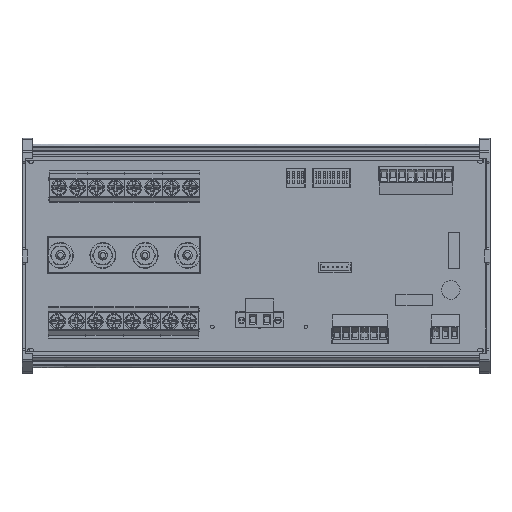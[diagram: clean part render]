
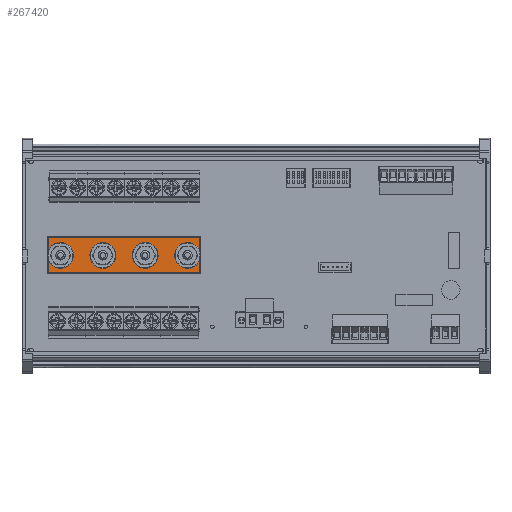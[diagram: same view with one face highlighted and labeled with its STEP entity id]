
A CAD part, top view. The second image highlights one B-rep face of the part: STEP entity #267420.
In plain terms, the highlighted planar face has unit normal (0, 0, 1).
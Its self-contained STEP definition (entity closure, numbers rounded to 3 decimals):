
#266843 = CYLINDRICAL_SURFACE('',#266844,0.5);
#266844 = AXIS2_PLACEMENT_3D('',#266845,#266846,#266847);
#266845 = CARTESIAN_POINT('',(0.5,0.,4.5));
#266846 = DIRECTION('',(0.,1.,0.));
#266847 = DIRECTION('',(-1.,0.,0.));
#267026 = VERTEX_POINT('',#267027);
#267027 = CARTESIAN_POINT('',(0.5,0.5,5.));
#267047 = EDGE_CURVE('',#267026,#267048,#267050,.T.);
#267048 = VERTEX_POINT('',#267049);
#267049 = CARTESIAN_POINT('',(0.5,19.5,5.));
#267050 = SURFACE_CURVE('',#267051,(#267055,#267062),.PCURVE_S1.);
#267051 = LINE('',#267052,#267053);
#267052 = CARTESIAN_POINT('',(0.5,0.,5.));
#267053 = VECTOR('',#267054,1.);
#267054 = DIRECTION('',(0.,1.,0.));
#267055 = PCURVE('',#266843,#267056);
#267056 = DEFINITIONAL_REPRESENTATION('',(#267057),#267061);
#267057 = LINE('',#267058,#267059);
#267058 = CARTESIAN_POINT('',(1.571,0.));
#267059 = VECTOR('',#267060,1.);
#267060 = DIRECTION('',(0.,1.));
#267061 = ( GEOMETRIC_REPRESENTATION_CONTEXT(2) 
PARAMETRIC_REPRESENTATION_CONTEXT() REPRESENTATION_CONTEXT('2D SPACE',''
  ) );
#267062 = PCURVE('',#267063,#267068);
#267063 = PLANE('',#267064);
#267064 = AXIS2_PLACEMENT_3D('',#267065,#267066,#267067);
#267065 = CARTESIAN_POINT('',(0.,0.,5.));
#267066 = DIRECTION('',(0.,0.,1.));
#267067 = DIRECTION('',(1.,0.,0.));
#267068 = DEFINITIONAL_REPRESENTATION('',(#267069),#267073);
#267069 = LINE('',#267070,#267071);
#267070 = CARTESIAN_POINT('',(0.5,0.));
#267071 = VECTOR('',#267072,1.);
#267072 = DIRECTION('',(0.,1.));
#267073 = ( GEOMETRIC_REPRESENTATION_CONTEXT(2) 
PARAMETRIC_REPRESENTATION_CONTEXT() REPRESENTATION_CONTEXT('2D SPACE',''
  ) );
#267227 = CYLINDRICAL_SURFACE('',#267228,0.5);
#267228 = AXIS2_PLACEMENT_3D('',#267229,#267230,#267231);
#267229 = CARTESIAN_POINT('',(0.,0.5,4.5));
#267230 = DIRECTION('',(1.,0.,0.));
#267231 = DIRECTION('',(0.,-1.,0.));
#267420 = ADVANCED_FACE('',(#267421),#267063,.T.);
#267421 = FACE_BOUND('',#267422,.T.);
#267422 = EDGE_LOOP('',(#267423,#267424,#267447,#267475));
#267423 = ORIENTED_EDGE('',*,*,#267047,.F.);
#267424 = ORIENTED_EDGE('',*,*,#267425,.T.);
#267425 = EDGE_CURVE('',#267026,#267426,#267428,.T.);
#267426 = VERTEX_POINT('',#267427);
#267427 = CARTESIAN_POINT('',(82.5,0.5,5.));
#267428 = SURFACE_CURVE('',#267429,(#267433,#267440),.PCURVE_S1.);
#267429 = LINE('',#267430,#267431);
#267430 = CARTESIAN_POINT('',(0.,0.5,5.));
#267431 = VECTOR('',#267432,1.);
#267432 = DIRECTION('',(1.,0.,0.));
#267433 = PCURVE('',#267063,#267434);
#267434 = DEFINITIONAL_REPRESENTATION('',(#267435),#267439);
#267435 = LINE('',#267436,#267437);
#267436 = CARTESIAN_POINT('',(0.,0.5));
#267437 = VECTOR('',#267438,1.);
#267438 = DIRECTION('',(1.,0.));
#267439 = ( GEOMETRIC_REPRESENTATION_CONTEXT(2) 
PARAMETRIC_REPRESENTATION_CONTEXT() REPRESENTATION_CONTEXT('2D SPACE',''
  ) );
#267440 = PCURVE('',#267227,#267441);
#267441 = DEFINITIONAL_REPRESENTATION('',(#267442),#267446);
#267442 = LINE('',#267443,#267444);
#267443 = CARTESIAN_POINT('',(4.712,0.));
#267444 = VECTOR('',#267445,1.);
#267445 = DIRECTION('',(0.,1.));
#267446 = ( GEOMETRIC_REPRESENTATION_CONTEXT(2) 
PARAMETRIC_REPRESENTATION_CONTEXT() REPRESENTATION_CONTEXT('2D SPACE',''
  ) );
#267447 = ORIENTED_EDGE('',*,*,#267448,.T.);
#267448 = EDGE_CURVE('',#267426,#267449,#267451,.T.);
#267449 = VERTEX_POINT('',#267450);
#267450 = CARTESIAN_POINT('',(82.5,19.5,5.));
#267451 = SURFACE_CURVE('',#267452,(#267456,#267463),.PCURVE_S1.);
#267452 = LINE('',#267453,#267454);
#267453 = CARTESIAN_POINT('',(82.5,0.,5.));
#267454 = VECTOR('',#267455,1.);
#267455 = DIRECTION('',(0.,1.,0.));
#267456 = PCURVE('',#267063,#267457);
#267457 = DEFINITIONAL_REPRESENTATION('',(#267458),#267462);
#267458 = LINE('',#267459,#267460);
#267459 = CARTESIAN_POINT('',(82.5,0.));
#267460 = VECTOR('',#267461,1.);
#267461 = DIRECTION('',(0.,1.));
#267462 = ( GEOMETRIC_REPRESENTATION_CONTEXT(2) 
PARAMETRIC_REPRESENTATION_CONTEXT() REPRESENTATION_CONTEXT('2D SPACE',''
  ) );
#267463 = PCURVE('',#267464,#267469);
#267464 = CYLINDRICAL_SURFACE('',#267465,0.5);
#267465 = AXIS2_PLACEMENT_3D('',#267466,#267467,#267468);
#267466 = CARTESIAN_POINT('',(82.5,0.,4.5));
#267467 = DIRECTION('',(0.,1.,0.));
#267468 = DIRECTION('',(1.,0.,0.));
#267469 = DEFINITIONAL_REPRESENTATION('',(#267470),#267474);
#267470 = LINE('',#267471,#267472);
#267471 = CARTESIAN_POINT('',(4.712,0.));
#267472 = VECTOR('',#267473,1.);
#267473 = DIRECTION('',(0.,1.));
#267474 = ( GEOMETRIC_REPRESENTATION_CONTEXT(2) 
PARAMETRIC_REPRESENTATION_CONTEXT() REPRESENTATION_CONTEXT('2D SPACE',''
  ) );
#267475 = ORIENTED_EDGE('',*,*,#267476,.F.);
#267476 = EDGE_CURVE('',#267048,#267449,#267477,.T.);
#267477 = SURFACE_CURVE('',#267478,(#267482,#267489),.PCURVE_S1.);
#267478 = LINE('',#267479,#267480);
#267479 = CARTESIAN_POINT('',(0.,19.5,5.));
#267480 = VECTOR('',#267481,1.);
#267481 = DIRECTION('',(1.,0.,0.));
#267482 = PCURVE('',#267063,#267483);
#267483 = DEFINITIONAL_REPRESENTATION('',(#267484),#267488);
#267484 = LINE('',#267485,#267486);
#267485 = CARTESIAN_POINT('',(0.,19.5));
#267486 = VECTOR('',#267487,1.);
#267487 = DIRECTION('',(1.,0.));
#267488 = ( GEOMETRIC_REPRESENTATION_CONTEXT(2) 
PARAMETRIC_REPRESENTATION_CONTEXT() REPRESENTATION_CONTEXT('2D SPACE',''
  ) );
#267489 = PCURVE('',#267490,#267495);
#267490 = CYLINDRICAL_SURFACE('',#267491,0.5);
#267491 = AXIS2_PLACEMENT_3D('',#267492,#267493,#267494);
#267492 = CARTESIAN_POINT('',(0.,19.5,4.5));
#267493 = DIRECTION('',(1.,0.,0.));
#267494 = DIRECTION('',(0.,1.,0.));
#267495 = DEFINITIONAL_REPRESENTATION('',(#267496),#267500);
#267496 = LINE('',#267497,#267498);
#267497 = CARTESIAN_POINT('',(1.571,0.));
#267498 = VECTOR('',#267499,1.);
#267499 = DIRECTION('',(0.,1.));
#267500 = ( GEOMETRIC_REPRESENTATION_CONTEXT(2) 
PARAMETRIC_REPRESENTATION_CONTEXT() REPRESENTATION_CONTEXT('2D SPACE',''
  ) );
